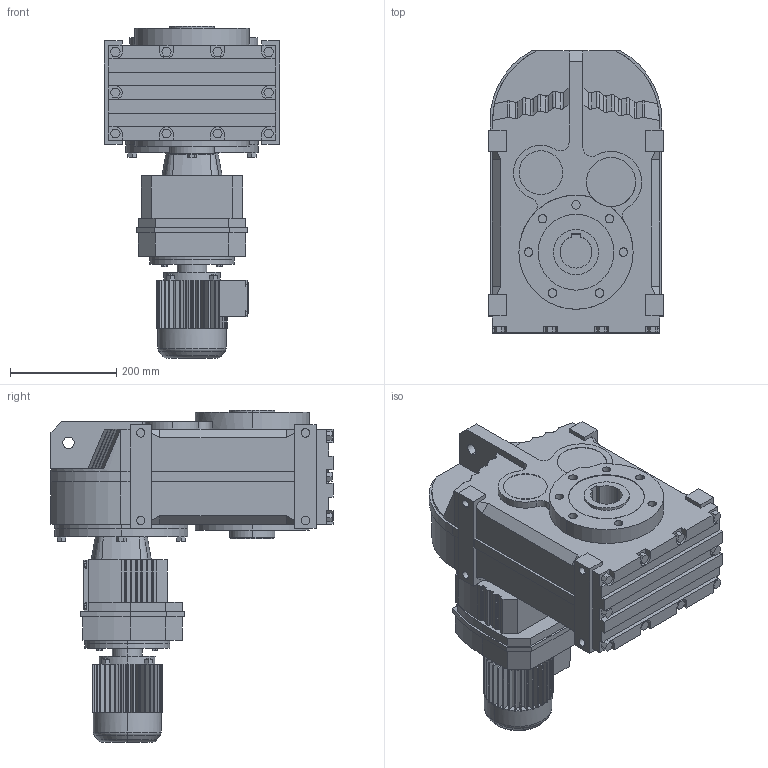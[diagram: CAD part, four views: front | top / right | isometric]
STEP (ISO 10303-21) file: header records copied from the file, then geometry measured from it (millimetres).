
FILE_DESCRIPTION(('Open CASCADE Model'),'2;1');
FILE_NAME('Open CASCADE Shape Model','2021-07-24T10:51:37',('Author'),( 'Open CASCADE'),'Open CASCADE STEP processor 6.3','Open CASCADE 6.3' ,'Unknown');
FILE_SCHEMA(('AUTOMOTIVE_DESIGN_CC2 { 1 2 10303 214 -1 1 5 4 }'));
Length unit declared in the file: millimetre
Products named in the file (5): 1_FA87R57DR63; FA27‵157_87.step; 萇儂_160-DR63-185-240-132-105.step; R_87_57.step; す瑩諾陑粣F_87.step
Assembly tree (4 placements, depth 2):
  1_FA87R57DR63
    FA27‵157_87.step
    萇儂_160-DR63-185-240-132-105.step
    R_87_57.step
    す瑩諾陑粣F_87.step
Bounding box: 330 x 531 x 625 mm (x, y, z)
Volume: 37093707.1 mm3; surface area: 1395313.4 mm2
Topology: 4 solids, 4 shells, 1004 faces, 2661 edges, 1742 vertices
Faces by surface type: plane 751, cylinder 223, bspline 16, cone 10, torus 4
Entity records: 67030 total; most frequent: CARTESIAN_POINT 15405, DIRECTION 9134, LINE 5479, VECTOR 5479, ORIENTED_EDGE 5322, PCURVE 5322, DEFINITIONAL_REPRESENTATION 5322, EDGE_CURVE 2661
